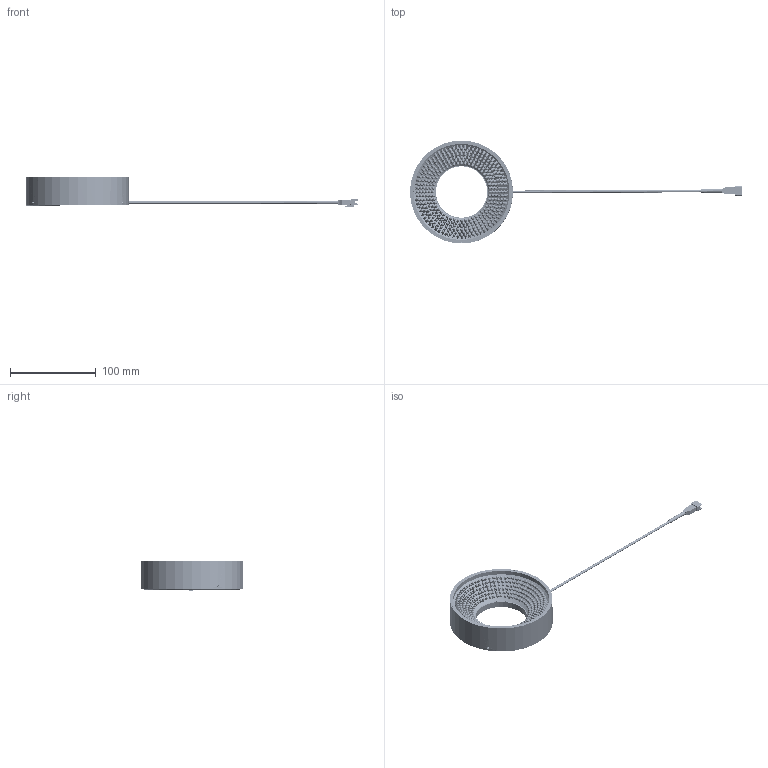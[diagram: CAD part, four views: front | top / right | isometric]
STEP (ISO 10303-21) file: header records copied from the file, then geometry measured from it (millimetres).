
FILE_DESCRIPTION(('STEP AP214'),'1');
FILE_NAME('VBA-12060_DRAWING_3D.step','2023-09-15T07:50:54',(' '),(' '),'Spatial InterOp 3D',' ',' ');
FILE_SCHEMA(('AUTOMOTIVE_DESIGN { 1 0 10303 214 1 1 1 1 }'));
Length unit declared in the file: millimetre
Products named in the file (5): BASE; PCB (NEW); COVER; 3P
Assembly tree (4 placements, depth 2):
  (unnamed)
    BASE
    PCB (NEW)
    COVER
    3P
Bounding box: 387.15 x 120 x 35.9 mm (x, y, z)
Volume: 163170.6 mm3; surface area: 95196.5 mm2
Topology: 5 solids, 5 shells, 2906 faces, 8144 edges, 5220 vertices
Faces by surface type: cylinder 1530, sphere 624, plane 507, cone 135, torus 100, bspline 10
Entity records: 135106 total; most frequent: CARTESIAN_POINT 37430, DIRECTION 16910, ORIENTED_EDGE 14808, AXIS2_PLACEMENT_3D 7432, EDGE_CURVE 7404, VERTEX_POINT 5220, CIRCLE 4531, EDGE_LOOP 3642
